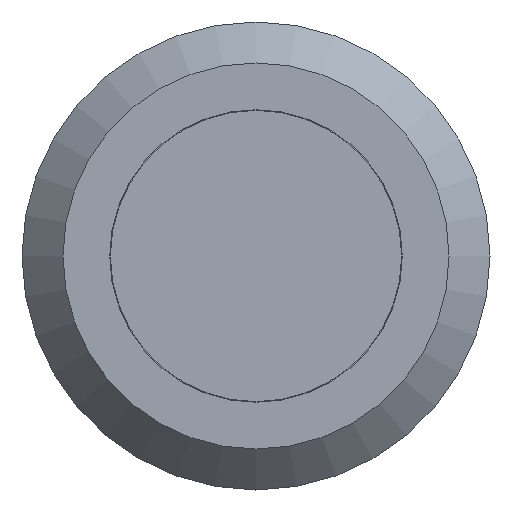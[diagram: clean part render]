
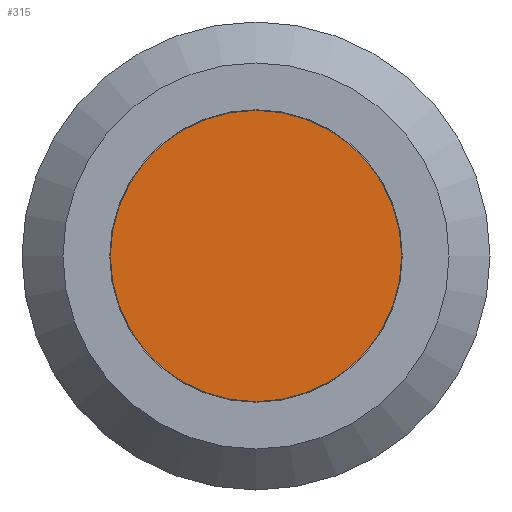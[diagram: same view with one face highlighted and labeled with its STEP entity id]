
A CAD part, front view. The second image highlights one B-rep face of the part: STEP entity #315.
In plain terms, the highlighted planar face has unit normal (0, -1, 0).
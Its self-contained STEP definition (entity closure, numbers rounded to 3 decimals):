
#96=ORIENTED_EDGE('',*,*,#164,.T.);
#164=EDGE_CURVE('',#202,#202,#223,.T.);
#202=VERTEX_POINT('',#512);
#223=CIRCLE('',#357,4.98);
#246=EDGE_LOOP('',(#96));
#276=FACE_BOUND('',#246,.T.);
#294=PLANE('',#358);
#315=ADVANCED_FACE('',(#276),#294,.F.);
#357=AXIS2_PLACEMENT_3D('',#511,#416,#417);
#358=AXIS2_PLACEMENT_3D('',#513,#418,#419);
#416=DIRECTION('',(0.,-1.,0.));
#417=DIRECTION('',(1.,0.,0.));
#418=DIRECTION('',(0.,1.,0.));
#419=DIRECTION('',(-1.,0.,0.));
#511=CARTESIAN_POINT('',(0.,0.,0.));
#512=CARTESIAN_POINT('',(4.98,0.,0.));
#513=CARTESIAN_POINT('',(4.98,0.,0.));
